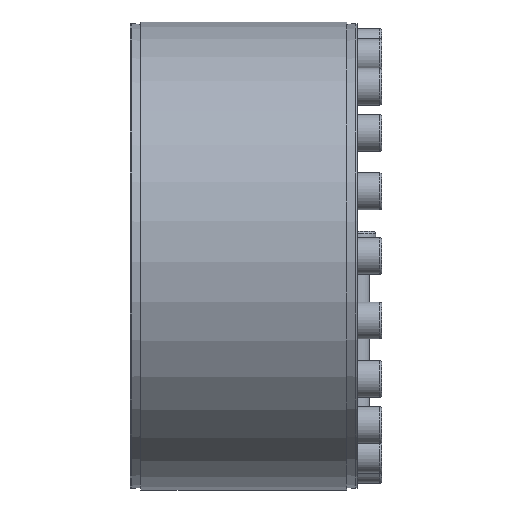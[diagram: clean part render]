
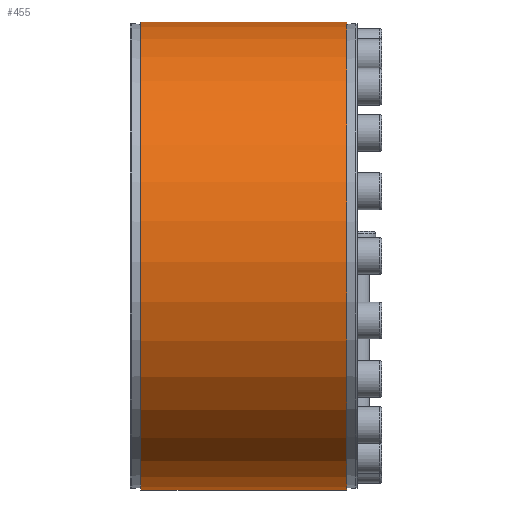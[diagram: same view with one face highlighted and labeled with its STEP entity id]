
A CAD part, left-side view. The second image highlights one B-rep face of the part: STEP entity #455.
In plain terms, the highlighted cylindrical face has radius 152.5 mm (diameter 305 mm), a partial arc.
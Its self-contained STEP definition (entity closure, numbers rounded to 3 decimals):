
#455 = ADVANCED_FACE( '', ( #754 ), #755, .T. );
#754 = FACE_OUTER_BOUND( '', #1154, .T. );
#755 = CYLINDRICAL_SURFACE( '', #1155, 152.5 );
#1154 = EDGE_LOOP( '', ( #1623, #1624, #1625, #1626 ) );
#1155 = AXIS2_PLACEMENT_3D( '', #1627, #1628, #1629 );
#1623 = ORIENTED_EDGE( '', *, *, #2343, .F. );
#1624 = ORIENTED_EDGE( '', *, *, #2344, .T. );
#1625 = ORIENTED_EDGE( '', *, *, #2284, .F. );
#1626 = ORIENTED_EDGE( '', *, *, #2345, .F. );
#1627 = CARTESIAN_POINT( '', ( 0., -60., 0. ) );
#1628 = DIRECTION( '', ( 0., 1., 0. ) );
#1629 = DIRECTION( '', ( 0., 0., -1. ) );
#2284 = EDGE_CURVE( '', #2533, #2535, #2536, .F. );
#2343 = EDGE_CURVE( '', #2647, #2648, #2649, .T. );
#2344 = EDGE_CURVE( '', #2647, #2535, #2650, .T. );
#2345 = EDGE_CURVE( '', #2648, #2533, #2651, .T. );
#2533 = VERTEX_POINT( '', #2877 );
#2535 = VERTEX_POINT( '', #2880 );
#2536 = LINE( '', #2881, #2882 );
#2647 = VERTEX_POINT( '', #3010 );
#2648 = VERTEX_POINT( '', #3011 );
#2649 = LINE( '', #3012, #3013 );
#2650 = CIRCLE( '', #3014, 152.5 );
#2651 = CIRCLE( '', #3015, 152.5 );
#2877 = CARTESIAN_POINT( '', ( 26.322, 7., 150.211 ) );
#2880 = CARTESIAN_POINT( '', ( 26.322, 141., 150.211 ) );
#2881 = CARTESIAN_POINT( '', ( 26.322, -60., 150.211 ) );
#2882 = VECTOR( '', #3238, 1000. );
#3010 = CARTESIAN_POINT( '', ( 21.384, 141., 150.993 ) );
#3011 = CARTESIAN_POINT( '', ( 21.384, 7., 150.993 ) );
#3012 = CARTESIAN_POINT( '', ( 21.384, -60., 150.993 ) );
#3013 = VECTOR( '', #3385, 1000. );
#3014 = AXIS2_PLACEMENT_3D( '', #3386, #3387, #3388 );
#3015 = AXIS2_PLACEMENT_3D( '', #3389, #3390, #3391 );
#3238 = DIRECTION( '', ( 0., -1., 0. ) );
#3385 = DIRECTION( '', ( 0., -1., 0. ) );
#3386 = CARTESIAN_POINT( '', ( 0., 141., 0. ) );
#3387 = DIRECTION( '', ( 0., -1., 0. ) );
#3388 = DIRECTION( '', ( 0., 0., -1. ) );
#3389 = CARTESIAN_POINT( '', ( 0., 7., 0. ) );
#3390 = DIRECTION( '', ( 0., -1., 0. ) );
#3391 = DIRECTION( '', ( 0., 0., -1. ) );
